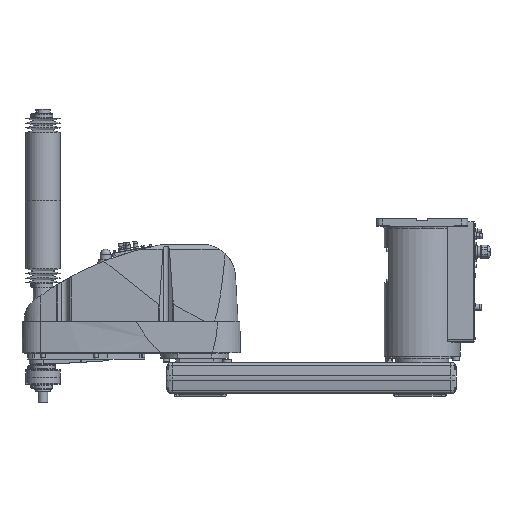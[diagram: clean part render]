
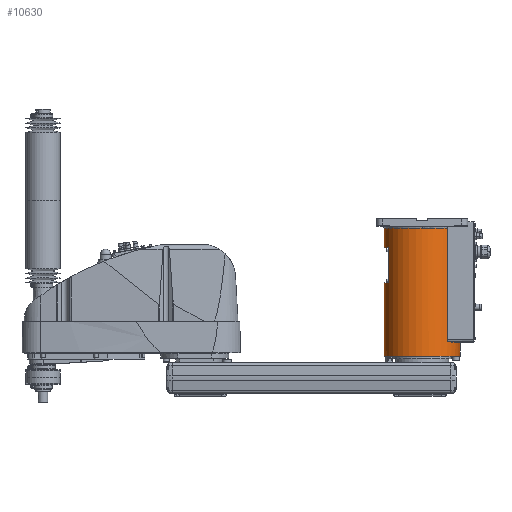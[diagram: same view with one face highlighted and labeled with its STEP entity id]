
A CAD part, top view. The second image highlights one B-rep face of the part: STEP entity #10630.
In plain terms, the highlighted cylindrical face has radius 100 mm (diameter 200 mm), a partial arc.
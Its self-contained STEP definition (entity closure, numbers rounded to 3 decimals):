
#10630 = ADVANCED_FACE( '', ( #30872 ), #30873, .T. );
#10694 = VERTEX_POINT( '', #30945 );
#11068 = VERTEX_POINT( '', #31365 );
#12102 = EDGE_CURVE( '', #28628, #12512, #32531, .T. );
#12512 = VERTEX_POINT( '', #32991 );
#13530 = EDGE_CURVE( '', #19080, #18708, #34120, .T. );
#15606 = EDGE_CURVE( '', #21174, #10694, #36477, .T. );
#17576 = EDGE_CURVE( '', #22350, #12512, #38665, .T. );
#17984 = EDGE_CURVE( '', #10694, #24876, #39113, .T. );
#18708 = VERTEX_POINT( '', #39926 );
#19080 = VERTEX_POINT( '', #40339 );
#20400 = EDGE_CURVE( '', #20520, #25836, #41806, .T. );
#20520 = VERTEX_POINT( '', #41939 );
#20704 = VERTEX_POINT( '', #42138 );
#21174 = VERTEX_POINT( '', #42662 );
#21316 = EDGE_CURVE( '', #23380, #11068, #42818, .T. );
#22350 = VERTEX_POINT( '', #43973 );
#22486 = EDGE_CURVE( '', #25836, #28628, #44122, .T. );
#23348 = VERTEX_POINT( '', #45063 );
#23380 = VERTEX_POINT( '', #45102 );
#24156 = VERTEX_POINT( '', #45981 );
#24876 = VERTEX_POINT( '', #46778 );
#25432 = EDGE_CURVE( '', #18708, #26610, #47423, .T. );
#25488 = EDGE_CURVE( '', #26610, #20520, #47484, .T. );
#25640 = EDGE_CURVE( '', #21174, #23380, #47652, .T. );
#25742 = EDGE_CURVE( '', #24876, #19080, #47762, .T. );
#25836 = VERTEX_POINT( '', #47867 );
#26166 = EDGE_CURVE( '', #22350, #23348, #48231, .T. );
#26610 = VERTEX_POINT( '', #48721 );
#27316 = EDGE_CURVE( '', #23348, #20704, #49526, .T. );
#27492 = EDGE_CURVE( '', #20704, #24156, #49723, .T. );
#28628 = VERTEX_POINT( '', #50972 );
#29666 = EDGE_CURVE( '', #11068, #24156, #52113, .T. );
#30872 = FACE_OUTER_BOUND( '', #53624, .T. );
#30873 = CYLINDRICAL_SURFACE( '', #53625, 100. );
#30945 = CARTESIAN_POINT( '', ( 89.303, 64., 45. ) );
#31365 = CARTESIAN_POINT( '', ( -100., 25., 0. ) );
#32531 = CIRCLE( '', #56138, 100. );
#32991 = CARTESIAN_POINT( '', ( -100., 363., 0. ) );
#34120 = LINE( '', #58456, #58457 );
#36477 = CIRCLE( '', #61927, 100. );
#38665 = LINE( '', #65109, #65110 );
#39113 = LINE( '', #65753, #65754 );
#39926 = CARTESIAN_POINT( '', ( 75.993, 64., 65. ) );
#40339 = CARTESIAN_POINT( '', ( 75.993, 62., 65. ) );
#41806 = LINE( '', #69623, #69624 );
#41939 = CARTESIAN_POINT( '', ( 66.144, 68., 75. ) );
#42138 = CARTESIAN_POINT( '', ( -88., 218.3, 47.497 ) );
#42662 = CARTESIAN_POINT( '', ( 100., 64., 0. ) );
#42818 = CIRCLE( '', #71150, 100. );
#43973 = CARTESIAN_POINT( '', ( -100., 311.3, 0. ) );
#44122 = CIRCLE( '', #73059, 100. );
#45063 = CARTESIAN_POINT( '', ( -88., 311.3, 47.497 ) );
#45102 = CARTESIAN_POINT( '', ( 100., 25., 0. ) );
#45981 = CARTESIAN_POINT( '', ( -100., 218.3, 0. ) );
#46778 = CARTESIAN_POINT( '', ( 89.303, 62., 45. ) );
#47423 = CIRCLE( '', #77975, 100. );
#47484 = B_SPLINE_CURVE_WITH_KNOTS( '', 3, ( #78057, #78058, #78059, #78060, #78061, #78062, #78063, #78064, #78065, #78066, #78067, #78068, #78069, #78070, #78071, #78072, #78073, #78074 ), .UNSPECIFIED., .F., .F., ( 4, 2, 2, 2, 2, 2, 2, 2, 4 ), ( -7.48, -6.36, -5.24, -4.12, -3., -2.25, -1.5, -0.75, 0. ), .UNSPECIFIED. );
#47652 = LINE( '', #78315, #78316 );
#47762 = CIRCLE( '', #78462, 100. );
#47867 = CARTESIAN_POINT( '', ( 66.144, 363., 75. ) );
#48231 = CIRCLE( '', #79156, 100. );
#48721 = CARTESIAN_POINT( '', ( 70.42, 64., 71. ) );
#49526 = LINE( '', #81026, #81027 );
#49723 = CIRCLE( '', #81287, 100. );
#50972 = CARTESIAN_POINT( '', ( 0., 363., 100. ) );
#52113 = LINE( '', #84792, #84793 );
#53624 = EDGE_LOOP( '', ( #86387, #86388, #86389, #86390, #86391, #86392, #86393, #86394, #86395, #86396, #86397, #86398, #86399, #86400, #86401, #86402 ) );
#53625 = AXIS2_PLACEMENT_3D( '', #86403, #86404, #86405 );
#56138 = AXIS2_PLACEMENT_3D( '', #88382, #88383, #88384 );
#58456 = CARTESIAN_POINT( '', ( 75.993, 63., 65. ) );
#58457 = VECTOR( '', #90156, 1. );
#61927 = AXIS2_PLACEMENT_3D( '', #93106, #93107, #93108 );
#65109 = CARTESIAN_POINT( '', ( -100., 194., 0. ) );
#65110 = VECTOR( '', #95599, 1. );
#65753 = CARTESIAN_POINT( '', ( 89.303, 63., 45. ) );
#65754 = VECTOR( '', #96096, 1. );
#69623 = CARTESIAN_POINT( '', ( 66.144, 215.5, 75. ) );
#69624 = VECTOR( '', #99209, 1. );
#71150 = AXIS2_PLACEMENT_3D( '', #100316, #100317, #100318 );
#73059 = AXIS2_PLACEMENT_3D( '', #101846, #101847, #101848 );
#77975 = AXIS2_PLACEMENT_3D( '', #105594, #105595, #105596 );
#78057 = CARTESIAN_POINT( '', ( 70.42, 64., 71. ) );
#78058 = CARTESIAN_POINT( '', ( 70.155, 64., 71.263 ) );
#78059 = CARTESIAN_POINT( '', ( 69.877, 64.026, 71.535 ) );
#78060 = CARTESIAN_POINT( '', ( 69.316, 64.139, 72.08 ) );
#78061 = CARTESIAN_POINT( '', ( 69.031, 64.224, 72.352 ) );
#78062 = CARTESIAN_POINT( '', ( 68.475, 64.457, 72.879 ) );
#78063 = CARTESIAN_POINT( '', ( 68.203, 64.604, 73.134 ) );
#78064 = CARTESIAN_POINT( '', ( 67.688, 64.954, 73.61 ) );
#78065 = CARTESIAN_POINT( '', ( 67.446, 65.158, 73.831 ) );
#78066 = CARTESIAN_POINT( '', ( 67.082, 65.542, 74.162 ) );
#78067 = CARTESIAN_POINT( '', ( 66.938, 65.716, 74.292 ) );
#78068 = CARTESIAN_POINT( '', ( 66.674, 66.103, 74.529 ) );
#78069 = CARTESIAN_POINT( '', ( 66.555, 66.315, 74.636 ) );
#78070 = CARTESIAN_POINT( '', ( 66.356, 66.766, 74.812 ) );
#78071 = CARTESIAN_POINT( '', ( 66.277, 67.005, 74.882 ) );
#78072 = CARTESIAN_POINT( '', ( 66.171, 67.497, 74.976 ) );
#78073 = CARTESIAN_POINT( '', ( 66.144, 67.75, 75. ) );
#78074 = CARTESIAN_POINT( '', ( 66.144, 68., 75. ) );
#78315 = CARTESIAN_POINT( '', ( 100., 194., 0. ) );
#78316 = VECTOR( '', #105864, 1. );
#78462 = AXIS2_PLACEMENT_3D( '', #105975, #105976, #105977 );
#79156 = AXIS2_PLACEMENT_3D( '', #106498, #106499, #106500 );
#81026 = CARTESIAN_POINT( '', ( -88., 264.8, 47.497 ) );
#81027 = VECTOR( '', #108066, 1. );
#81287 = AXIS2_PLACEMENT_3D( '', #108283, #108284, #108285 );
#84792 = CARTESIAN_POINT( '', ( -100., 194., 0. ) );
#84793 = VECTOR( '', #110869, 1. );
#86387 = ORIENTED_EDGE( '', *, *, #25640, .F. );
#86388 = ORIENTED_EDGE( '', *, *, #15606, .T. );
#86389 = ORIENTED_EDGE( '', *, *, #17984, .T. );
#86390 = ORIENTED_EDGE( '', *, *, #25742, .T. );
#86391 = ORIENTED_EDGE( '', *, *, #13530, .T. );
#86392 = ORIENTED_EDGE( '', *, *, #25432, .T. );
#86393 = ORIENTED_EDGE( '', *, *, #25488, .T. );
#86394 = ORIENTED_EDGE( '', *, *, #20400, .T. );
#86395 = ORIENTED_EDGE( '', *, *, #22486, .T. );
#86396 = ORIENTED_EDGE( '', *, *, #12102, .T. );
#86397 = ORIENTED_EDGE( '', *, *, #17576, .F. );
#86398 = ORIENTED_EDGE( '', *, *, #26166, .T. );
#86399 = ORIENTED_EDGE( '', *, *, #27316, .T. );
#86400 = ORIENTED_EDGE( '', *, *, #27492, .T. );
#86401 = ORIENTED_EDGE( '', *, *, #29666, .F. );
#86402 = ORIENTED_EDGE( '', *, *, #21316, .F. );
#86403 = CARTESIAN_POINT( '', ( 0., 194., 0. ) );
#86404 = DIRECTION( '', ( 0., 1., 0. ) );
#86405 = DIRECTION( '', ( 1., 0., 0. ) );
#88382 = CARTESIAN_POINT( '', ( 0., 363., 0. ) );
#88383 = DIRECTION( '', ( 0., -1., 0. ) );
#88384 = DIRECTION( '', ( 1., 0., 0. ) );
#90156 = DIRECTION( '', ( 0., 1., 0. ) );
#93106 = CARTESIAN_POINT( '', ( 0., 64., 0. ) );
#93107 = DIRECTION( '', ( 0., -1., 0. ) );
#93108 = DIRECTION( '', ( 1., 0., 0. ) );
#95599 = DIRECTION( '', ( 0., 1., 0. ) );
#96096 = DIRECTION( '', ( 0., -1., 0. ) );
#99209 = DIRECTION( '', ( 0., 1., 0. ) );
#100316 = CARTESIAN_POINT( '', ( 0., 25., 0. ) );
#100317 = DIRECTION( '', ( 0., -1., 0. ) );
#100318 = DIRECTION( '', ( 1., 0., 0. ) );
#101846 = CARTESIAN_POINT( '', ( 0., 363., 0. ) );
#101847 = DIRECTION( '', ( 0., -1., 0. ) );
#101848 = DIRECTION( '', ( 1., 0., 0. ) );
#105594 = CARTESIAN_POINT( '', ( 0., 64., 0. ) );
#105595 = DIRECTION( '', ( 0., -1., 0. ) );
#105596 = DIRECTION( '', ( 1., 0., 0. ) );
#105864 = DIRECTION( '', ( 0., -1., 0. ) );
#105975 = CARTESIAN_POINT( '', ( 0., 62., 0. ) );
#105976 = DIRECTION( '', ( 0., -1., 0. ) );
#105977 = DIRECTION( '', ( 1., 0., 0. ) );
#106498 = CARTESIAN_POINT( '', ( 0., 311.3, 0. ) );
#106499 = DIRECTION( '', ( 0., 1., 0. ) );
#106500 = DIRECTION( '', ( 1., 0., 0. ) );
#108066 = DIRECTION( '', ( 0., -1., 0. ) );
#108283 = CARTESIAN_POINT( '', ( 0., 218.3, 0. ) );
#108284 = DIRECTION( '', ( 0., -1., 0. ) );
#108285 = DIRECTION( '', ( 1., 0., 0. ) );
#110869 = DIRECTION( '', ( 0., 1., 0. ) );
